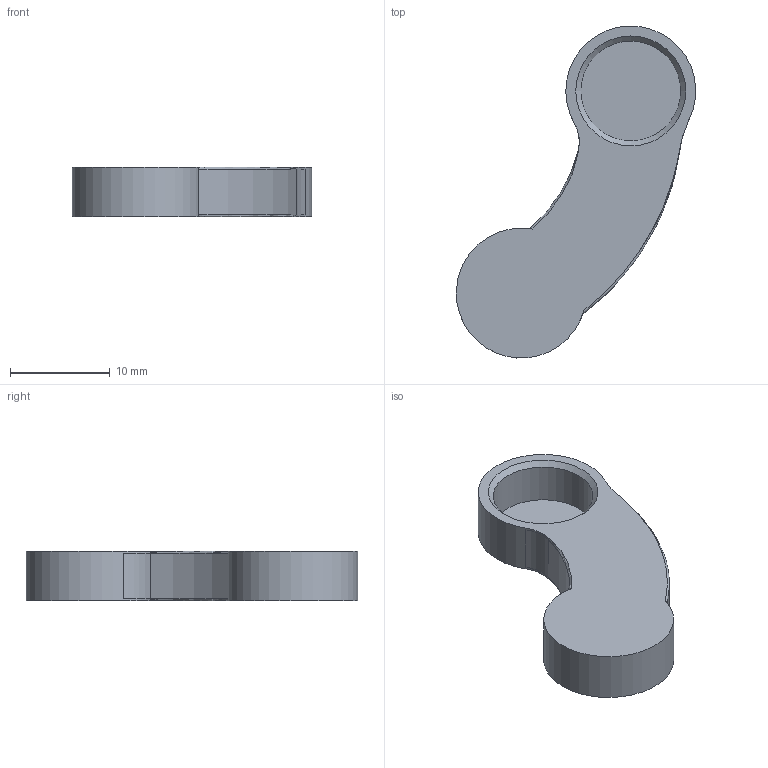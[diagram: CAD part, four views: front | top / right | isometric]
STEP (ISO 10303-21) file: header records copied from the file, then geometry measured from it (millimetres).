
FILE_DESCRIPTION(/* description */ ('NOT SPECIFIED'),/* implementation_level */ '2;1');
FILE_NAME(/* name */ 'Acuator Host-Join-5.step',/* time_stamp */ '2026-09-18T19:39:08+10:00',/* author */ (''),/* organization */ (''),/* preprocessor_version */ 'ST-DEVELOPER v20.2',/* originating_system */ 'Autodesk Translation Framework v15.15.0.0',/* authorisation */ '');
FILE_SCHEMA (('AUTOMOTIVE_DESIGN { 1 0 10303 214 3 1 1 }'));
Length unit declared in the file: millimetre
Products named in the file (2): _AF1_ASM; 00
Assembly tree (1 placements, depth 2):
  _AF1_ASM
    00
Bounding box: 23.94 x 33.21 x 5 mm (x, y, z)
Volume: 1266.8 mm3; surface area: 1515.7 mm2
Topology: 1 solids, 1 shells, 21 faces, 46 edges, 29 vertices
Faces by surface type: cylinder 8, plane 4, torus 4, bspline 4, cone 1
Full cylindrical faces by diameter (mm): 10 x2
Entity records: 1016 total; most frequent: CARTESIAN_POINT 503, ORIENTED_EDGE 92, DIRECTION 91, EDGE_CURVE 46, AXIS2_PLACEMENT_3D 41, VERTEX_POINT 29, EDGE_LOOP 23, FACE_OUTER_BOUND 21
